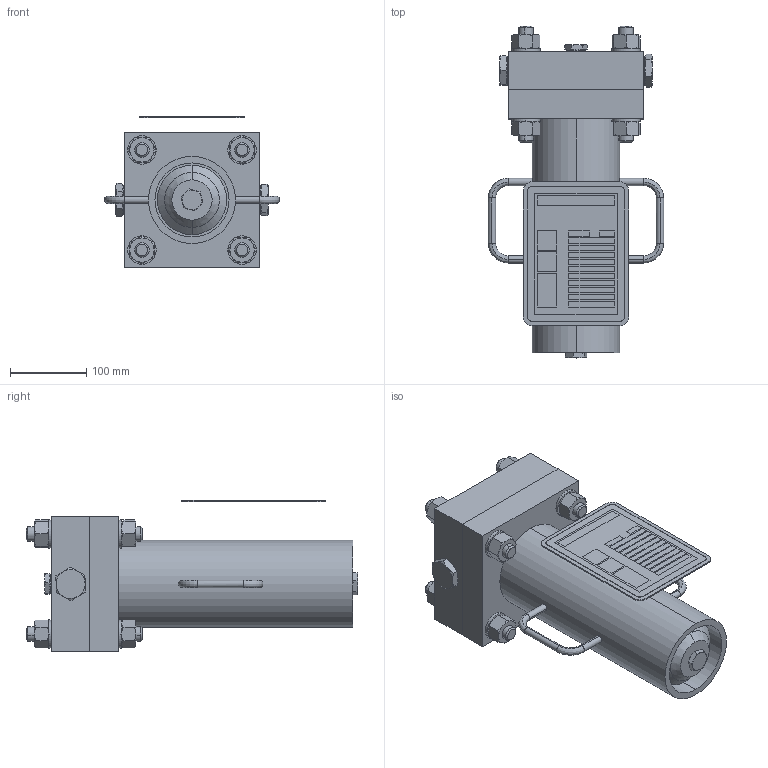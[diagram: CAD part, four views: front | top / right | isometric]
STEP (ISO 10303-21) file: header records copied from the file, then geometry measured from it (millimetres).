
FILE_DESCRIPTION (( 'STEP AP203' ), '1' );
FILE_NAME ('001008-00148.step', '2025-12-09T14:41:44', ( '' ), ( '' ), 'SwSTEP 2.0', 'SolidWorks 2023', '' );
FILE_SCHEMA (( 'CONFIG_CONTROL_DESIGN' ));
Length unit declared in the file: inch
Products named in the file (1): 001008-00148
Bounding box: 229.99 x 435.47 x 198.69 mm (x, y, z)
Volume: 3936349.9 mm3; surface area: 447415.3 mm2
Topology: 6 solids, 6 shells, 395 faces, 878 edges, 546 vertices
Faces by surface type: cone 166, plane 155, cylinder 62, bspline 12
Entity records: 12943 total; most frequent: CARTESIAN_POINT 4540, ORIENTED_EDGE 1756, DIRECTION 1636, EDGE_CURVE 878, AXIS2_PLACEMENT_3D 682, VERTEX_POINT 546, EDGE_LOOP 446, ADVANCED_FACE 395
